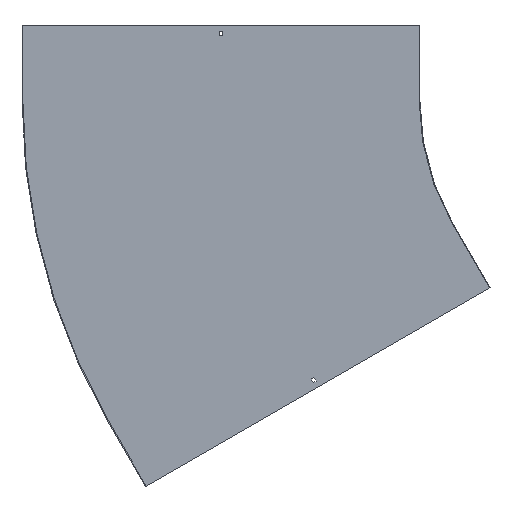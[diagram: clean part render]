
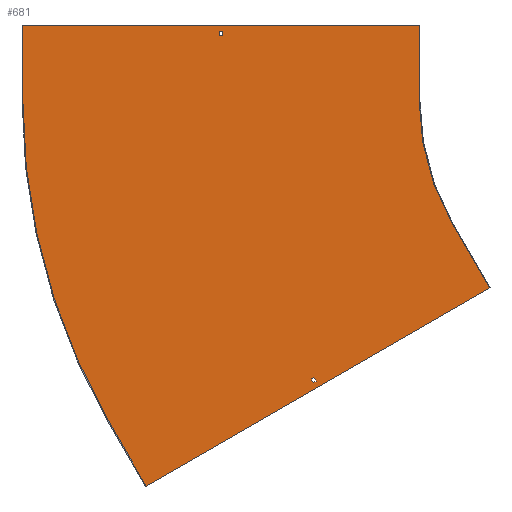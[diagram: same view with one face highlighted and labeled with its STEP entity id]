
A CAD part, front view. The second image highlights one B-rep face of the part: STEP entity #681.
In plain terms, the highlighted planar face has unit normal (0, -1, 0).
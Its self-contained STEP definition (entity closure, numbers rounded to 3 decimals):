
#16 = LINE ( 'NONE', #220, #600 ) ;
#24 = ORIENTED_EDGE ( 'NONE', *, *, #863, .F. ) ;
#25 = DIRECTION ( 'NONE',  ( 0., 0., 1. ) ) ;
#38 = ORIENTED_EDGE ( 'NONE', *, *, #401, .T. ) ;
#49 = LINE ( 'NONE', #707, #710 ) ;
#84 = CIRCLE ( 'NONE', #386, 1300. ) ;
#87 = VECTOR ( 'NONE', #824, 1000. ) ;
#89 = DIRECTION ( 'NONE',  ( -0.5, 0., 0.866 ) ) ;
#99 = ORIENTED_EDGE ( 'NONE', *, *, #381, .F. ) ;
#100 = VERTEX_POINT ( 'NONE', #391 ) ;
#107 = ORIENTED_EDGE ( 'NONE', *, *, #304, .T. ) ;
#108 = DIRECTION ( 'NONE',  ( -0.5, 0., 0.866 ) ) ;
#111 = CARTESIAN_POINT ( 'NONE',  ( -713.237, -1.5, -571.137 ) ) ;
#115 = ORIENTED_EDGE ( 'NONE', *, *, #781, .T. ) ;
#118 = DIRECTION ( 'NONE',  ( 0., 0., -1. ) ) ;
#120 = VECTOR ( 'NONE', #843, 1000. ) ;
#121 = LINE ( 'NONE', #129, #676 ) ;
#129 = CARTESIAN_POINT ( 'NONE',  ( 69., -1.5, -119.512 ) ) ;
#145 = DIRECTION ( 'NONE',  ( 0., 0., 1. ) ) ;
#154 = ORIENTED_EDGE ( 'NONE', *, *, #828, .F. ) ;
#158 = EDGE_LOOP ( 'NONE', ( #373, #505, #154, #570 ) ) ;
#162 = EDGE_CURVE ( 'NONE', #392, #442, #84, .T. ) ;
#163 = DIRECTION ( 'NONE',  ( 1., 0., 0. ) ) ;
#170 = VERTEX_POINT ( 'NONE', #609 ) ;
#172 = VECTOR ( 'NONE', #108, 1000. ) ;
#173 = VECTOR ( 'NONE', #216, 1000. ) ;
#185 = CARTESIAN_POINT ( 'NONE',  ( -776.608, -1.5, -448.375 ) ) ;
#187 = CARTESIAN_POINT ( 'NONE',  ( -1050.833, -1.5, -779.904 ) ) ;
#196 = EDGE_CURVE ( 'NONE', #100, #423, #287, .T. ) ;
#203 = EDGE_CURVE ( 'NONE', #691, #234, #356, .T. ) ;
#208 = VECTOR ( 'NONE', #25, 1000. ) ;
#214 = DIRECTION ( 'NONE',  ( 0., 0., -1. ) ) ;
#216 = DIRECTION ( 'NONE',  ( 0.5, 0., -0.866 ) ) ;
#220 = CARTESIAN_POINT ( 'NONE',  ( -1301.5, -1.5, 150. ) ) ;
#222 = DIRECTION ( 'NONE',  ( 0.5, 0., -0.866 ) ) ;
#234 = VERTEX_POINT ( 'NONE', #745 ) ;
#244 = CARTESIAN_POINT ( 'NONE',  ( -1125.833, -1.5, -650. ) ) ;
#255 = VERTEX_POINT ( 'NONE', #295 ) ;
#260 = VECTOR ( 'NONE', #832, 1000. ) ;
#265 = EDGE_CURVE ( 'NONE', #442, #686, #812, .T. ) ;
#270 = DIRECTION ( 'NONE',  ( 0., 0., -1. ) ) ;
#280 = VERTEX_POINT ( 'NONE', #111 ) ;
#287 = LINE ( 'NONE', #758, #631 ) ;
#289 = FACE_OUTER_BOUND ( 'NONE', #725, .T. ) ;
#295 = CARTESIAN_POINT ( 'NONE',  ( -500., -1.5, 150. ) ) ;
#301 = CARTESIAN_POINT ( 'NONE',  ( -896.75, -1.5, 129. ) ) ;
#302 = CARTESIAN_POINT ( 'NONE',  ( -358.013, -1.5, -379.904 ) ) ;
#304 = EDGE_CURVE ( 'NONE', #636, #562, #434, .T. ) ;
#311 = CARTESIAN_POINT ( 'NONE',  ( -356.714, -1.5, -379.154 ) ) ;
#315 = EDGE_CURVE ( 'NONE', #328, #691, #696, .T. ) ;
#325 = DIRECTION ( 'NONE',  ( 0., 1., 0. ) ) ;
#328 = VERTEX_POINT ( 'NONE', #782 ) ;
#331 = EDGE_CURVE ( 'NONE', #280, #328, #121, .T. ) ;
#340 = VECTOR ( 'NONE', #222, 1000. ) ;
#341 = ORIENTED_EDGE ( 'NONE', *, *, #162, .F. ) ;
#342 = CARTESIAN_POINT ( 'NONE',  ( -433.013, -1.5, -250. ) ) ;
#356 = LINE ( 'NONE', #490, #260 ) ;
#373 = ORIENTED_EDGE ( 'NONE', *, *, #315, .F. ) ;
#379 = LINE ( 'NONE', #582, #208 ) ;
#381 = EDGE_CURVE ( 'NONE', #170, #399, #633, .T. ) ;
#386 = AXIS2_PLACEMENT_3D ( 'NONE', #660, #325, #598 ) ;
#387 = VECTOR ( 'NONE', #89, 1000. ) ;
#391 = CARTESIAN_POINT ( 'NONE',  ( -903.25, -1.5, 138. ) ) ;
#392 = VERTEX_POINT ( 'NONE', #244 ) ;
#399 = VERTEX_POINT ( 'NONE', #557 ) ;
#401 = EDGE_CURVE ( 'NONE', #562, #100, #379, .T. ) ;
#409 = PLANE ( 'NONE',  #417 ) ;
#417 = AXIS2_PLACEMENT_3D ( 'NONE', #558, #494, #214 ) ;
#422 = CARTESIAN_POINT ( 'NONE',  ( -1300., -1.5, 150. ) ) ;
#423 = VERTEX_POINT ( 'NONE', #485 ) ;
#433 = VERTEX_POINT ( 'NONE', #187 ) ;
#434 = LINE ( 'NONE', #705, #120 ) ;
#442 = VERTEX_POINT ( 'NONE', #627 ) ;
#460 = VECTOR ( 'NONE', #145, 1000. ) ;
#463 = CARTESIAN_POINT ( 'NONE',  ( 0., -1.5, 0. ) ) ;
#476 = LINE ( 'NONE', #342, #340 ) ;
#480 = FACE_BOUND ( 'NONE', #823, .T. ) ;
#485 = CARTESIAN_POINT ( 'NONE',  ( -896.75, -1.5, 138. ) ) ;
#487 = DIRECTION ( 'NONE',  ( 1., 0., 0. ) ) ;
#490 = CARTESIAN_POINT ( 'NONE',  ( 64.5, -1.5, -111.717 ) ) ;
#494 = DIRECTION ( 'NONE',  ( 0., -1., 0. ) ) ;
#499 = ORIENTED_EDGE ( 'NONE', *, *, #757, .F. ) ;
#502 = EDGE_CURVE ( 'NONE', #255, #170, #49, .T. ) ;
#503 = CARTESIAN_POINT ( 'NONE',  ( -903.25, -1.5, 129. ) ) ;
#505 = ORIENTED_EDGE ( 'NONE', *, *, #331, .F. ) ;
#512 = ORIENTED_EDGE ( 'NONE', *, *, #502, .F. ) ;
#532 = VERTEX_POINT ( 'NONE', #302 ) ;
#549 = LINE ( 'NONE', #831, #173 ) ;
#552 = EDGE_CURVE ( 'NONE', #532, #433, #853, .T. ) ;
#555 = CARTESIAN_POINT ( 'NONE',  ( -896.75, -1.5, 0. ) ) ;
#557 = CARTESIAN_POINT ( 'NONE',  ( -433.013, -1.5, -250. ) ) ;
#558 = CARTESIAN_POINT ( 'NONE',  ( 0., -1.5, 0. ) ) ;
#562 = VERTEX_POINT ( 'NONE', #503 ) ;
#570 = ORIENTED_EDGE ( 'NONE', *, *, #203, .F. ) ;
#582 = CARTESIAN_POINT ( 'NONE',  ( -903.25, -1.5, 0. ) ) ;
#597 = ORIENTED_EDGE ( 'NONE', *, *, #552, .F. ) ;
#598 = DIRECTION ( 'NONE',  ( 0., 0., -1. ) ) ;
#600 = VECTOR ( 'NONE', #487, 1000. ) ;
#609 = CARTESIAN_POINT ( 'NONE',  ( -500., -1.5, 0. ) ) ;
#618 = DIRECTION ( 'NONE',  ( 0.866, 0., 0.5 ) ) ;
#620 = LINE ( 'NONE', #555, #87 ) ;
#622 = LINE ( 'NONE', #803, #387 ) ;
#627 = CARTESIAN_POINT ( 'NONE',  ( -1300., -1.5, 0. ) ) ;
#628 = FACE_BOUND ( 'NONE', #158, .T. ) ;
#631 = VECTOR ( 'NONE', #163, 1000. ) ;
#633 = CIRCLE ( 'NONE', #861, 500. ) ;
#636 = VERTEX_POINT ( 'NONE', #301 ) ;
#660 = CARTESIAN_POINT ( 'NONE',  ( 0., -1.5, 0. ) ) ;
#676 = VECTOR ( 'NONE', #618, 1000. ) ;
#681 = ADVANCED_FACE ( 'NONE', ( #628, #289, #480 ), #409, .T. ) ;
#686 = VERTEX_POINT ( 'NONE', #422 ) ;
#691 = VERTEX_POINT ( 'NONE', #731 ) ;
#694 = VECTOR ( 'NONE', #776, 1000. ) ;
#696 = LINE ( 'NONE', #185, #172 ) ;
#701 = ORIENTED_EDGE ( 'NONE', *, *, #265, .F. ) ;
#705 = CARTESIAN_POINT ( 'NONE',  ( 0., -1.5, 129. ) ) ;
#707 = CARTESIAN_POINT ( 'NONE',  ( -500., -1.5, 150. ) ) ;
#710 = VECTOR ( 'NONE', #118, 1000. ) ;
#725 = EDGE_LOOP ( 'NONE', ( #499, #701, #341, #24, #597, #763, #99, #512 ) ) ;
#727 = DIRECTION ( 'NONE',  ( 0., -1., 0. ) ) ;
#731 = CARTESIAN_POINT ( 'NONE',  ( -712.108, -1.5, -560.092 ) ) ;
#740 = CARTESIAN_POINT ( 'NONE',  ( -1300., -1.5, 0. ) ) ;
#745 = CARTESIAN_POINT ( 'NONE',  ( -717.737, -1.5, -563.342 ) ) ;
#757 = EDGE_CURVE ( 'NONE', #686, #255, #16, .T. ) ;
#758 = CARTESIAN_POINT ( 'NONE',  ( 0., -1.5, 138. ) ) ;
#763 = ORIENTED_EDGE ( 'NONE', *, *, #778, .F. ) ;
#776 = DIRECTION ( 'NONE',  ( -0.866, 0., -0.5 ) ) ;
#778 = EDGE_CURVE ( 'NONE', #399, #532, #476, .T. ) ;
#781 = EDGE_CURVE ( 'NONE', #423, #636, #620, .T. ) ;
#782 = CARTESIAN_POINT ( 'NONE',  ( -707.608, -1.5, -567.887 ) ) ;
#796 = ORIENTED_EDGE ( 'NONE', *, *, #196, .T. ) ;
#803 = CARTESIAN_POINT ( 'NONE',  ( -1050.833, -1.5, -779.904 ) ) ;
#812 = LINE ( 'NONE', #740, #460 ) ;
#823 = EDGE_LOOP ( 'NONE', ( #796, #115, #107, #38 ) ) ;
#824 = DIRECTION ( 'NONE',  ( 0., 0., -1. ) ) ;
#828 = EDGE_CURVE ( 'NONE', #234, #280, #549, .T. ) ;
#831 = CARTESIAN_POINT ( 'NONE',  ( -782.237, -1.5, -451.625 ) ) ;
#832 = DIRECTION ( 'NONE',  ( -0.866, 0., -0.5 ) ) ;
#843 = DIRECTION ( 'NONE',  ( -1., 0., 0. ) ) ;
#853 = LINE ( 'NONE', #311, #694 ) ;
#861 = AXIS2_PLACEMENT_3D ( 'NONE', #463, #727, #270 ) ;
#863 = EDGE_CURVE ( 'NONE', #433, #392, #622, .T. ) ;
